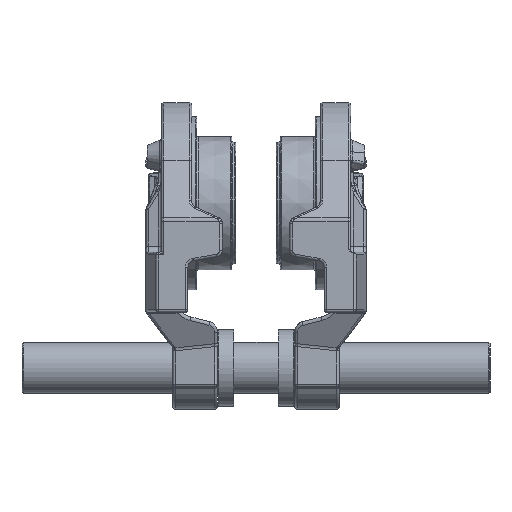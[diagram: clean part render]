
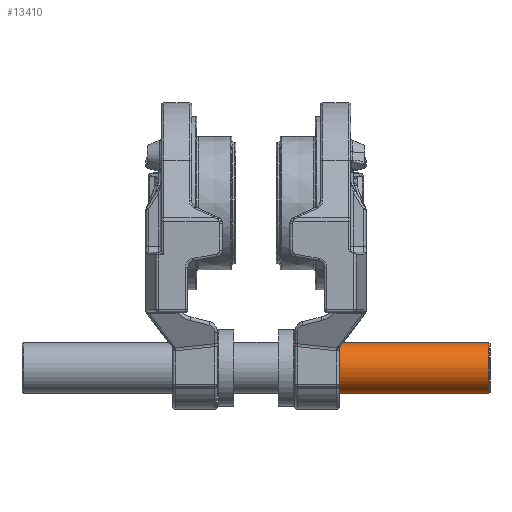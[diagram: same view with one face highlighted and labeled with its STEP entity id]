
A CAD part, front view. The second image highlights one B-rep face of the part: STEP entity #13410.
In plain terms, the highlighted cylindrical face has radius 20 mm (diameter 40 mm), a full revolution.
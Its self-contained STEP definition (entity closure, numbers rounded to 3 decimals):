
#1847=LINE('',#20296,#2450);
#2450=VECTOR('',#16164,20.);
#3053=CYLINDRICAL_SURFACE('',#14369,20.);
#3374=FACE_OUTER_BOUND('',#4244,.T.);
#4244=EDGE_LOOP('',(#9250,#9251,#9252,#9253,#9254,#9255));
#5131=CIRCLE('',#14367,20.);
#5132=CIRCLE('',#14370,20.);
#5133=CIRCLE('',#14371,20.);
#5134=CIRCLE('',#14372,20.);
#6032=VERTEX_POINT('',#20290);
#6033=VERTEX_POINT('',#20295);
#6034=VERTEX_POINT('',#20297);
#6035=VERTEX_POINT('',#20299);
#7211=EDGE_CURVE('',#6032,#6032,#5131,.T.);
#7213=EDGE_CURVE('',#6032,#6033,#1847,.T.);
#7214=EDGE_CURVE('',#6034,#6033,#5132,.T.);
#7215=EDGE_CURVE('',#6035,#6034,#5133,.T.);
#7216=EDGE_CURVE('',#6033,#6035,#5134,.T.);
#9250=ORIENTED_EDGE('',*,*,#7211,.T.);
#9251=ORIENTED_EDGE('',*,*,#7213,.T.);
#9252=ORIENTED_EDGE('',*,*,#7214,.F.);
#9253=ORIENTED_EDGE('',*,*,#7215,.F.);
#9254=ORIENTED_EDGE('',*,*,#7216,.F.);
#9255=ORIENTED_EDGE('',*,*,#7213,.F.);
#13410=ADVANCED_FACE('',(#3374),#3053,.T.);
#14367=AXIS2_PLACEMENT_3D('',#20291,#16157,#16158);
#14369=AXIS2_PLACEMENT_3D('',#20294,#16162,#16163);
#14370=AXIS2_PLACEMENT_3D('',#20298,#16165,#16166);
#14371=AXIS2_PLACEMENT_3D('',#20300,#16167,#16168);
#14372=AXIS2_PLACEMENT_3D('',#20301,#16169,#16170);
#16157=DIRECTION('center_axis',(-1.,0.,0.));
#16158=DIRECTION('ref_axis',(0.,1.,0.));
#16162=DIRECTION('center_axis',(1.,0.,0.));
#16163=DIRECTION('ref_axis',(0.,1.,0.));
#16164=DIRECTION('',(-1.,0.,0.));
#16165=DIRECTION('center_axis',(-1.,0.,0.));
#16166=DIRECTION('ref_axis',(0.,-1.,0.));
#16167=DIRECTION('center_axis',(-1.,0.,0.));
#16168=DIRECTION('ref_axis',(0.,-1.,0.));
#16169=DIRECTION('center_axis',(-1.,0.,0.));
#16170=DIRECTION('ref_axis',(0.,-1.,0.));
#20290=CARTESIAN_POINT('',(-29.5,-20.,0.));
#20291=CARTESIAN_POINT('Origin',(-29.5,0.,0.));
#20294=CARTESIAN_POINT('Origin',(0.,0.,0.));
#20295=CARTESIAN_POINT('',(-183.,-20.,0.));
#20296=CARTESIAN_POINT('',(0.,-20.,0.));
#20297=CARTESIAN_POINT('',(-183.,20.,0.));
#20298=CARTESIAN_POINT('Origin',(-183.,0.,0.));
#20299=CARTESIAN_POINT('',(-183.,0.,20.));
#20300=CARTESIAN_POINT('Origin',(-183.,0.,0.));
#20301=CARTESIAN_POINT('Origin',(-183.,0.,0.));
